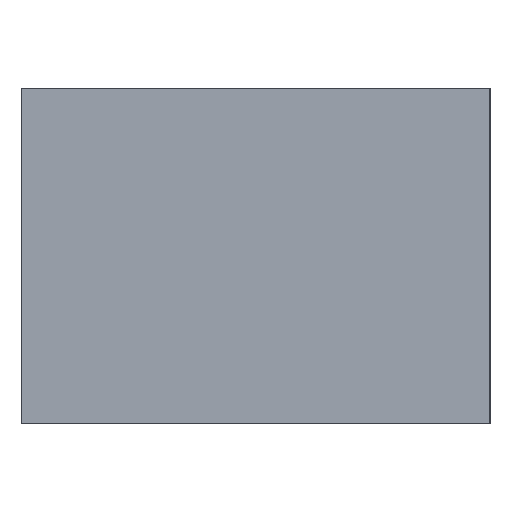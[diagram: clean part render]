
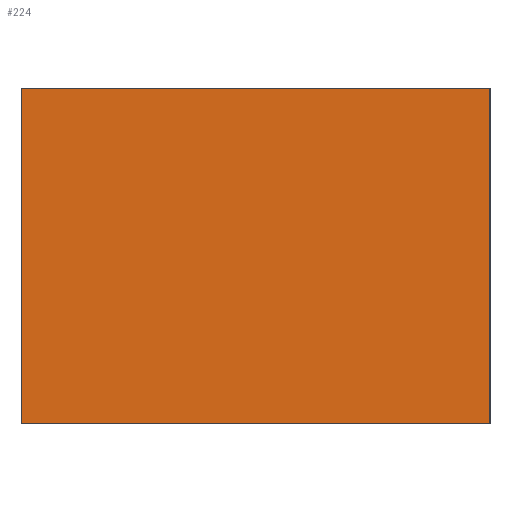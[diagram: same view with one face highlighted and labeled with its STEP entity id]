
A CAD part, left-side view. The second image highlights one B-rep face of the part: STEP entity #224.
In plain terms, the highlighted planar face has unit normal (-1, 0, 0).
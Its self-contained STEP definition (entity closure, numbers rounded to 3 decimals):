
#46=ORIENTED_EDGE('',*,*,#93,.T.);
#47=ORIENTED_EDGE('',*,*,#94,.F.);
#48=ORIENTED_EDGE('',*,*,#95,.F.);
#49=ORIENTED_EDGE('',*,*,#91,.T.);
#91=EDGE_CURVE('',#115,#114,#135,.T.);
#93=EDGE_CURVE('',#114,#116,#137,.T.);
#94=EDGE_CURVE('',#117,#116,#138,.T.);
#95=EDGE_CURVE('',#115,#117,#139,.T.);
#114=VERTEX_POINT('',#353);
#115=VERTEX_POINT('',#355);
#116=VERTEX_POINT('',#359);
#117=VERTEX_POINT('',#361);
#135=LINE('',#354,#147);
#137=LINE('',#358,#149);
#138=LINE('',#360,#150);
#139=LINE('',#362,#151);
#147=VECTOR('',#286,1000.);
#149=VECTOR('',#290,1000.);
#150=VECTOR('',#291,1000.);
#151=VECTOR('',#292,1000.);
#156=EDGE_LOOP('',(#46,#47,#48,#49));
#186=FACE_BOUND('',#156,.T.);
#216=PLANE('',#251);
#224=ADVANCED_FACE('',(#186),#216,.F.);
#251=AXIS2_PLACEMENT_3D('',#357,#288,#289);
#286=DIRECTION('',(0.,0.,-1.));
#288=DIRECTION('',(1.,0.,0.));
#289=DIRECTION('',(0.,0.,-1.));
#290=DIRECTION('',(0.,-1.,0.));
#291=DIRECTION('',(0.,0.,-1.));
#292=DIRECTION('',(0.,-1.,0.));
#353=CARTESIAN_POINT('',(-30.,21.,0.));
#354=CARTESIAN_POINT('',(-30.,21.,30.));
#355=CARTESIAN_POINT('',(-30.,21.,30.));
#357=CARTESIAN_POINT('',(-30.,-21.,30.));
#358=CARTESIAN_POINT('',(-30.,-21.,0.));
#359=CARTESIAN_POINT('',(-30.,-21.,0.));
#360=CARTESIAN_POINT('',(-30.,-21.,30.));
#361=CARTESIAN_POINT('',(-30.,-21.,30.));
#362=CARTESIAN_POINT('',(-30.,-21.,30.));
